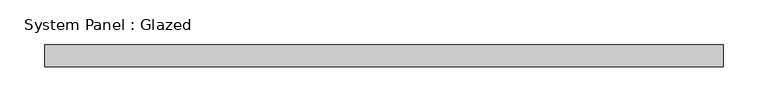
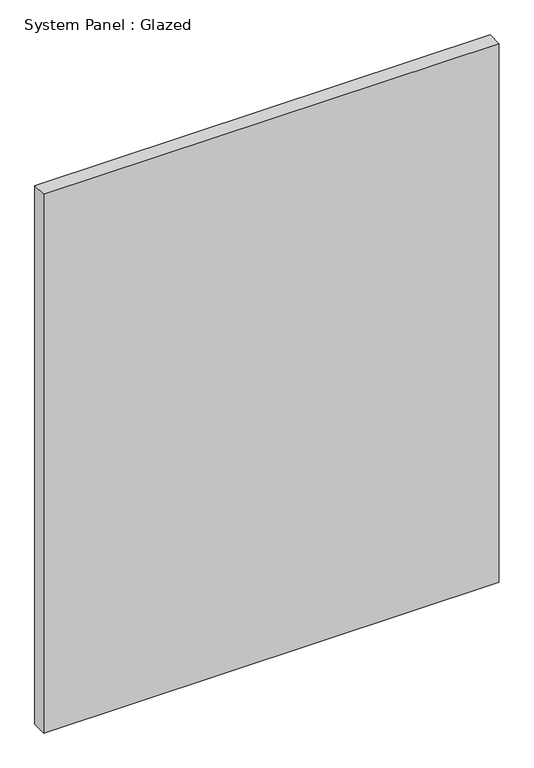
"""IFC4 building model written with IfcOpenShell, lengths in millimetres: plate geometry, System Panel : Glazed."""

import ifcopenshell
import ifcopenshell.guid

model = None  # the IFC model being written
_history = None  # IfcOwnerHistory: only IFC2X3 demands one
_inside = {}  # id of a spatial element -> (the spatial element, [elements in it])
_under = {}  # id of a project, library or spatial element -> (it, [spatial elements below it])
_declared = {}  # id of a project -> (the project, [libraries it declares])
_typed = {}  # id of a type object -> (the type object, [elements of that type])
_made_of = {}  # id of a material, layer set ... -> (it, [elements and type objects made of it])


def new_model(schema):
    """Start an empty IFC model of exactly this schema.

    Asked for "IFC4X3", IfcOpenShell would pick the latest addendum, in which some entities
    have other attributes; the version numbers below select the first issue.
    IFC2X3 requires an IfcOwnerHistory on every rooted entity: one is made here for all.
    """
    global model, _history
    if schema == "IFC4X3":
        model = ifcopenshell.file(schema_version=(4, 3, 0, 0))
    else:
        model = ifcopenshell.file(schema=schema)
    _inside.clear()
    _under.clear()
    _declared.clear()
    _typed.clear()
    _made_of.clear()
    _history = None
    if model.schema == "IFC2X3":
        org = make("IfcOrganization", Name="unknown")
        user = make(
            "IfcPersonAndOrganization",
            ThePerson=make("IfcPerson", FamilyName="unknown"),
            TheOrganization=org,
        )
        app = make(
            "IfcApplication",
            ApplicationDeveloper=org,
            Version="unknown",
            ApplicationFullName="unknown",
            ApplicationIdentifier="unknown",
        )
        _history = make(
            "IfcOwnerHistory",
            OwningUser=user,
            OwningApplication=app,
            ChangeAction="ADDED",
            CreationDate=0,
        )
    return model


def make(cls, **values):
    """One entity of the class cls with the attributes given. An attribute that is None is left unset."""
    return model.create_entity(
        cls, **{name: value for name, value in values.items() if value is not None}
    )


def rooted(cls, **values):
    """An entity with a GlobalId (a new one), such as an element, a storey or a relation."""
    return make(cls, GlobalId=ifcopenshell.guid.new(), OwnerHistory=_history, **values)


def si_unit(unit_type, name, prefix=None):
    """IfcSIUnit, for example si_unit("LENGTHUNIT", "METRE", prefix="MILLI")."""
    return make("IfcSIUnit", UnitType=unit_type, Prefix=prefix, Name=name)


def assignment(units):
    """IfcUnitAssignment: the units of a project."""
    return None if units is None else make("IfcUnitAssignment", Units=units)


def point(xyz):
    """IfcCartesianPoint."""
    return None if xyz is None else make("IfcCartesianPoint", Coordinates=xyz)


def direction(xyz):
    """IfcDirection."""
    return None if xyz is None else make("IfcDirection", DirectionRatios=xyz)


def frame(location, z_axis=None, x_axis=None):
    """IfcAxis2Placement3D, a coordinate frame: its origin and axes. An axis left out is left unset."""
    return make(
        "IfcAxis2Placement3D",
        Location=point(location),
        Axis=direction(z_axis),
        RefDirection=direction(x_axis),
    )


def origin():
    """The frame at (0, 0, 0) with its axes left unset."""
    return frame((0.0, 0.0, 0.0))


def origin_with_axes():
    """The frame at (0, 0, 0) with the z axis (0, 0, 1) and the x axis (1, 0, 0) written out."""
    return frame((0.0, 0.0, 0.0), z_axis=(0.0, 0.0, 1.0), x_axis=(1.0, 0.0, 0.0))


def place(relative_to, where):
    """IfcLocalPlacement: puts the frame where relative to a parent placement (None: the world)."""
    return make(
        "IfcLocalPlacement", PlacementRelTo=relative_to, RelativePlacement=where
    )


def context(
    kind, dimensions, precision=None, world=None, true_north=None, identifier=None
):
    """IfcGeometricRepresentationContext, for example the 3D "Model" context."""
    return make(
        "IfcGeometricRepresentationContext",
        ContextIdentifier=identifier,
        ContextType=kind,
        CoordinateSpaceDimension=dimensions,
        Precision=precision,
        WorldCoordinateSystem=world,
        TrueNorth=true_north,
    )


def project(units=None, contexts=None):
    """IfcProject with its units and contexts."""
    return rooted(
        "IfcProject",
        Name="project",
        RepresentationContexts=contexts,
        UnitsInContext=assignment(units),
    )


def spatial(cls, under=None, at=None, **own):
    """A site, building, storey or space (cls), placed at a placement, below another one or the project."""
    s = rooted(cls, ObjectPlacement=at, **own)
    if under is not None:
        _under.setdefault(under.id(), (under, []))[1].append(s)
    return s


def polyline(points):
    """IfcPolyline through the points."""
    return make("IfcPolyline", Points=[point(p) for p in points])


def outline(outer, holes=None, kind="AREA"):
    """IfcArbitraryClosedProfileDef: a profile drawn as a closed curve; with holes, ...WithVoids."""
    if holes is None:
        return make("IfcArbitraryClosedProfileDef", ProfileType=kind, OuterCurve=outer)
    return make(
        "IfcArbitraryProfileDefWithVoids",
        ProfileType=kind,
        OuterCurve=outer,
        InnerCurves=holes,
    )


def extrude(swept, where, along, depth):
    """IfcExtrudedAreaSolid: the profile swept, set in the frame where, extruded along a direction by depth."""
    return make(
        "IfcExtrudedAreaSolid",
        SweptArea=swept,
        Position=where,
        ExtrudedDirection=direction(along),
        Depth=depth,
    )


def shape(context_of_items, identifier, shape_type, items):
    """IfcShapeRepresentation: the items that make up one representation, for example the "Body"."""
    return make(
        "IfcShapeRepresentation",
        ContextOfItems=context_of_items,
        RepresentationIdentifier=identifier,
        RepresentationType=shape_type,
        Items=items,
    )


def source(mapping_origin, context_of_items, identifier, shape_type, items):
    """IfcRepresentationMap: a shape defined once, which mapped items show again and again."""
    return make(
        "IfcRepresentationMap",
        MappingOrigin=mapping_origin,
        MappedRepresentation=shape(context_of_items, identifier, shape_type, items),
    )


def transform(
    local_origin,
    x_axis=None,
    y_axis=None,
    z_axis=None,
    scale=None,
    scale2=None,
    scale3=None,
    uniform=True,
):
    """IfcCartesianTransformationOperator3D, or its non-uniform kind. x_axis, y_axis, z_axis: its Axis1, 2, 3."""
    if uniform:
        return make(
            "IfcCartesianTransformationOperator3D",
            Axis1=direction(x_axis),
            Axis2=direction(y_axis),
            LocalOrigin=point(local_origin),
            Scale=scale,
            Axis3=direction(z_axis),
        )
    return make(
        "IfcCartesianTransformationOperator3DnonUniform",
        Axis1=direction(x_axis),
        Axis2=direction(y_axis),
        LocalOrigin=point(local_origin),
        Scale=scale,
        Axis3=direction(z_axis),
        Scale2=scale2,
        Scale3=scale3,
    )


def mapped(mapping_source, mapping_target):
    """IfcMappedItem: shows the shape of a source again, moved by a transform."""
    return make(
        "IfcMappedItem", MappingSource=mapping_source, MappingTarget=mapping_target
    )


def made_of(thing, what):
    """Note that an element or type object is made of a material, layer set ...; save() writes the relation."""
    if what is not None:
        _made_of.setdefault(what.id(), (what, []))[1].append(thing)
    return thing


def element(
    cls,
    number,
    at=None,
    inside=None,
    cuts=None,
    type_object=None,
    material=None,
    context=None,
    identifier="Body",
    shape_type=None,
    held_by="IfcProductDefinitionShape",
    body=None,
    shapes=None,
    **own,
):
    """One element of the class cls, such as IfcWall. Its Tag is "e" and its number.

    at: its placement. inside: the storey or other place that contains it. cuts: it is an
    opening in that element (IfcRelVoidsElement). A single representation is given by context,
    identifier, shape_type and body (its items); several are given by shapes. held_by: the class
    of the entity that holds the representations. save() writes the other relations.
    """
    e = rooted(cls, Tag="e%d" % number, ObjectPlacement=at, **own)
    if body is not None:
        shapes = [shape(context, identifier, shape_type, body)]
    if shapes is not None:
        e.Representation = make(held_by, Representations=shapes)
    if inside is not None:
        _inside.setdefault(inside.id(), (inside, []))[1].append(e)
    if cuts is not None:
        rooted(
            "IfcRelVoidsElement", RelatingBuildingElement=cuts, RelatedOpeningElement=e
        )
    if type_object is not None:
        _typed.setdefault(type_object.id(), (type_object, []))[1].append(e)
    return made_of(e, material)


def aggregate(whole, parts):
    """IfcRelAggregates: a whole, such as a stair, and the parts it consists of."""
    return rooted("IfcRelAggregates", RelatingObject=whole, RelatedObjects=parts)


def save(model, path):
    """Write the relations noted so far, then the file.

    IfcRelAggregates (storeys below a building ...), IfcRelContainedInSpatialStructure (elements
    in a storey), IfcRelDefinesByType, IfcRelAssociatesMaterial and IfcRelDeclares: one each for
    every whole, place, type object, material and project.
    """
    for whole, parts in _under.values():
        aggregate(whole, parts)
    for where, things in _inside.values():
        rooted(
            "IfcRelContainedInSpatialStructure",
            RelatedElements=things,
            RelatingStructure=where,
        )
    for kind, things in _typed.values():
        rooted("IfcRelDefinesByType", RelatedObjects=things, RelatingType=kind)
    for what, things in _made_of.values():
        rooted("IfcRelAssociatesMaterial", RelatedObjects=things, RelatingMaterial=what)
    for by, libraries in _declared.values():
        rooted("IfcRelDeclares", RelatingContext=by, RelatedDefinitions=libraries)
    model.write(path)


def system_panel_glazed_63c8d6ba(model_context):
    return source(origin(), model_context, "Body", "SweptSolid", [
        extrude(outline(polyline([(380.3077389, 24.5), (-380.3077389, 24.5), (-380.3077389, 49.5), (380.3077389, 49.5), (380.3077389, 24.5)])), origin_with_axes(), (0.0, 0.0, 1.0), 950.0),
    ])


if __name__ == "__main__":
    model = new_model("IFC4")
    model_context = context("Model", 3, world=origin())
    ifc_project = project(units=[si_unit("LENGTHUNIT", "METRE", prefix="MILLI")], contexts=[model_context])
    site = spatial("IfcSite", under=ifc_project)
    building = spatial("IfcBuilding", under=site)
    placement = place(None, origin())
    system_panel_glazed_shape = system_panel_glazed_63c8d6ba(model_context)
    element("IfcPlate", 1, ObjectType="System Panel : Glazed", at=placement, inside=building, context=model_context, shape_type="MappedRepresentation", body=[
        mapped(system_panel_glazed_shape, transform((0.0, 0.0, 0.0), x_axis=(1.0, 0.0, 0.0), y_axis=(0.0, 1.0, 0.0), z_axis=(0.0, 0.0, 1.0))),
    ])
    save(model, "model.ifc")
